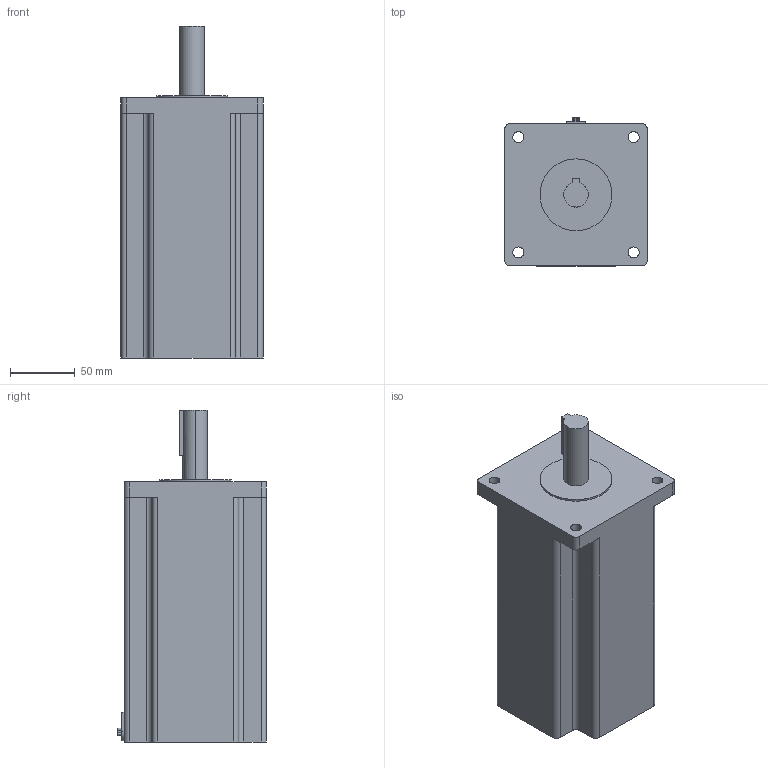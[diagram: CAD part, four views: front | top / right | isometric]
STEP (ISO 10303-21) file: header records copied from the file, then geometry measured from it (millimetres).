
FILE_DESCRIPTION (( 'STEP AP203' ), '1' );
FILE_NAME ('2S110Q-054K1.STEP', '2017-06-08T09:00:20', ( 'IT毞諾' ), ( 'iTianKong.com' ), 'SwSTEP 2.0', 'SolidWorks 2008', '' );
FILE_SCHEMA (( 'CONFIG_CONTROL_DESIGN' ));
Length unit declared in the file: millimetre
Products named in the file (1): 2S110Q-054K1
Bounding box: 109.86 x 114.86 x 256.37 mm (x, y, z)
Volume: 2093734.4 mm3; surface area: 113350.4 mm2
Topology: 1 solids, 1 shells, 73 faces, 189 edges, 126 vertices
Faces by surface type: cylinder 40, plane 33
Entity records: 2358 total; most frequent: DIRECTION 419, CARTESIAN_POINT 389, ORIENTED_EDGE 378, EDGE_CURVE 189, AXIS2_PLACEMENT_3D 156, VERTEX_POINT 126, VECTOR 107, LINE 107
